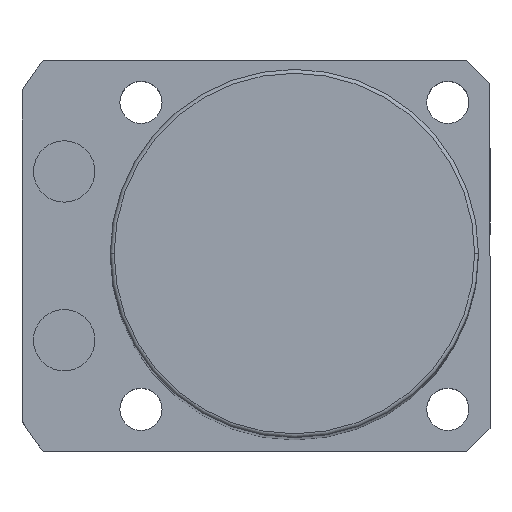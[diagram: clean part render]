
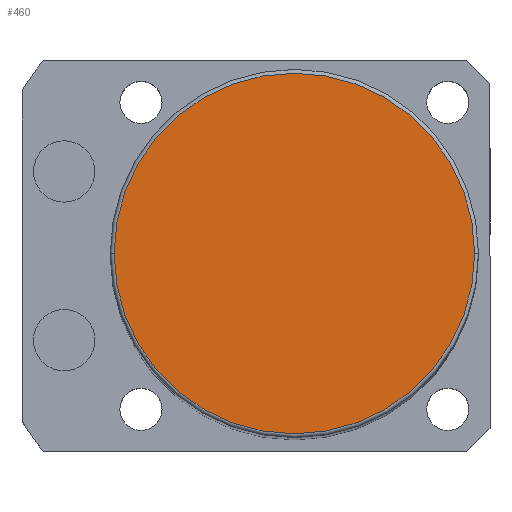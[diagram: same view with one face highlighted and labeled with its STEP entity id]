
A CAD part, top view. The second image highlights one B-rep face of the part: STEP entity #460.
In plain terms, the highlighted planar face has unit normal (0, 0, 1).
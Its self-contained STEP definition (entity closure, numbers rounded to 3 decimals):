
#21 = VERTEX_POINT ( 'NONE', #1637 ) ;
#121 = CARTESIAN_POINT ( 'NONE',  ( -23.5, 0., 186. ) ) ;
#378 = FACE_OUTER_BOUND ( 'NONE', #2111, .T. ) ;
#460 = ADVANCED_FACE ( 'NONE', ( #378 ), #2462, .T. ) ;
#535 = EDGE_CURVE ( 'NONE', #21, #1131, #2122, .T. ) ;
#667 = DIRECTION ( 'NONE',  ( 0., 0., 1. ) ) ;
#1131 = VERTEX_POINT ( 'NONE', #121 ) ;
#1390 = DIRECTION ( 'NONE',  ( 0., 0., 1. ) ) ;
#1472 = ORIENTED_EDGE ( 'NONE', *, *, #2209, .T. ) ;
#1637 = CARTESIAN_POINT ( 'NONE',  ( 23.5, 0., 186. ) ) ;
#1743 = CARTESIAN_POINT ( 'NONE',  ( 0., 0., 186. ) ) ;
#1826 = AXIS2_PLACEMENT_3D ( 'NONE', #2669, #2249, #1838 ) ;
#1838 = DIRECTION ( 'NONE',  ( 1., 0., 0. ) ) ;
#2034 = CARTESIAN_POINT ( 'NONE',  ( 0., 0., 186. ) ) ;
#2111 = EDGE_LOOP ( 'NONE', ( #2507, #1472 ) ) ;
#2122 = CIRCLE ( 'NONE', #2474, 23.5 ) ;
#2179 = AXIS2_PLACEMENT_3D ( 'NONE', #2034, #1390, #2297 ) ;
#2209 = EDGE_CURVE ( 'NONE', #1131, #21, #2684, .T. ) ;
#2249 = DIRECTION ( 'NONE',  ( 0., 0., 1. ) ) ;
#2297 = DIRECTION ( 'NONE',  ( 1., 0., 0. ) ) ;
#2462 = PLANE ( 'NONE',  #1826 ) ;
#2474 = AXIS2_PLACEMENT_3D ( 'NONE', #1743, #667, #2571 ) ;
#2507 = ORIENTED_EDGE ( 'NONE', *, *, #535, .T. ) ;
#2571 = DIRECTION ( 'NONE',  ( 1., 0., 0. ) ) ;
#2669 = CARTESIAN_POINT ( 'NONE',  ( 0., 0., 186. ) ) ;
#2684 = CIRCLE ( 'NONE', #2179, 23.5 ) ;
